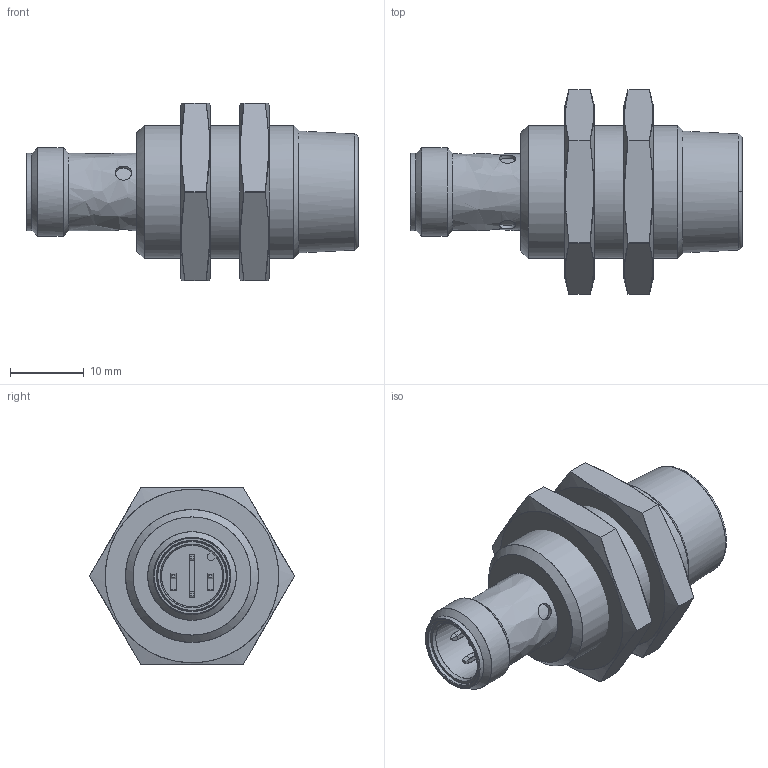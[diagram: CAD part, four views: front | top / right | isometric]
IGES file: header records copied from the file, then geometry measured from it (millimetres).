
Start section: C
Global section: file name: IR18.xxxx-N45.xxxx.7BO.igs; native system:  By UGS Corp.; preprocessor: XPlus GENERIC/IGES 3.0; author: Author; organization: Title; date: 20150916.084736; units: millimetre
Bounding box: 44.95 x 27.71 x 24 mm (x, y, z)
Surface area: 5118.2 mm2 (no closed solid volume)
Topology: 0 solids, 0 shells, 144 faces, 804 edges, 804 vertices
Faces by surface type: bspline 144
